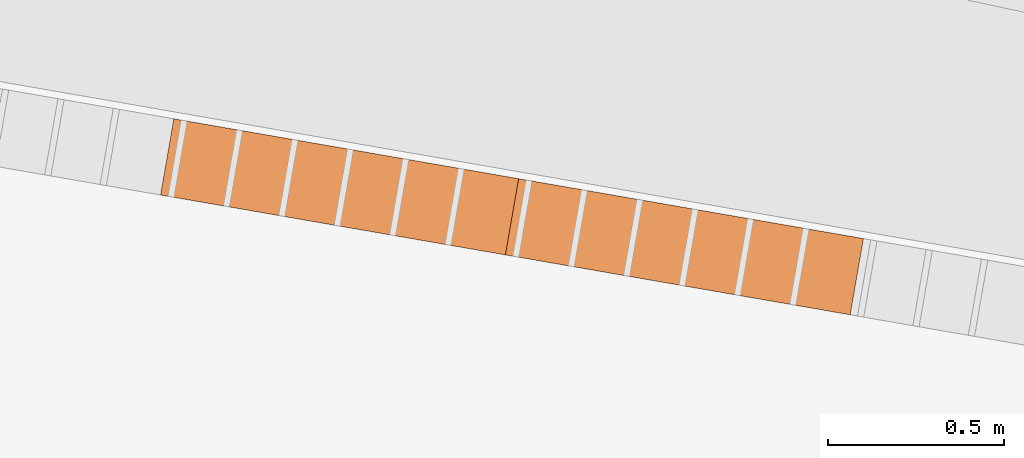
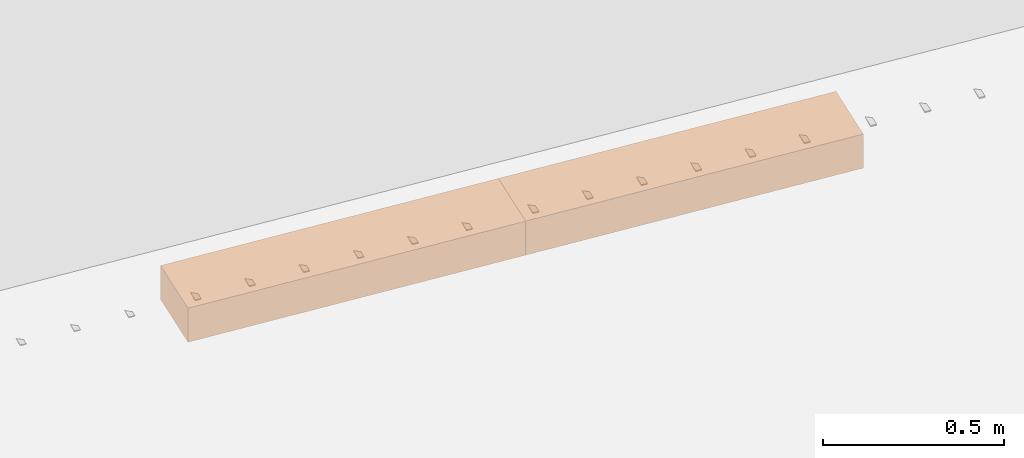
# Not in any storey, part 31 of 33: 2 proxies.
"""IFC4 model written with IfcOpenShell, lengths in metres."""

from ifc_helpers import new_model, si_unit, direction, frame, origin_with_axes, place, context, subcontext, project, spatial, polygons, material, element, save


model = new_model("IFC4")

# Units and contexts
model_context = context("Model", 3, precision=1e-05, world=origin_with_axes(), true_north=direction((0.0, 1.0)))
body_context = subcontext(model_context, "Body", "Model", "MODEL_VIEW")
ifc_project = project(units=[si_unit("LENGTHUNIT", "METRE"), si_unit("AREAUNIT", "SQUARE_METRE"), si_unit("VOLUMEUNIT", "CUBIC_METRE")], contexts=[model_context])

# Site
site_placement = place(None, origin_with_axes())
site = spatial("IfcSite", under=ifc_project, at=site_placement, Name="Lares · Rua das Mercês · artigo 4771")

# Proxies
ifc_material = material(Name="Brita drenante", Category="stone")
proxy_1_placement = place(site_placement, frame((0.0, 0.0, 0.0), z_axis=(0.0, 0.0, 1.0), x_axis=(1.0, -1.03767253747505e-17, 0.0)))
element("IfcBuildingElementProxy", 1, at=proxy_1_placement, inside=site, material=ifc_material, Name="Acesso · dreno lateral raso · leito drenante", ObjectType="Acesso · dreno lateral raso · leito drenante", PredefinedType="USERDEFINED", context=body_context, shape_type="Tessellation", body=[
    polygons([(75.3361707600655, 6.69992759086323, 15.9272099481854), (75.37381996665, 6.91668214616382, 15.9272099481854), (76.3548475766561, 6.74628244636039, 15.981428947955), (76.3171983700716, 6.5295278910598, 15.981428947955), (75.3361707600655, 6.69992759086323, 16.0422099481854), (75.37381996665, 6.91668214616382, 16.0422099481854), (76.3548475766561, 6.74628244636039, 16.096428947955), (76.3171983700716, 6.5295278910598, 16.096428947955)], [[[4, 3, 2, 1]], [[5, 6, 7, 8]], [[1, 2, 6, 5]], [[2, 3, 7, 6]], [[3, 4, 8, 7]], [[4, 1, 5, 8]]]),
])
proxy_2_placement = place(site_placement, frame((0.0, 0.0, 0.0), z_axis=(0.0, 0.0, 1.0), x_axis=(1.0, -1.03767253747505e-17, 0.0)))
element("IfcBuildingElementProxy", 2, at=proxy_2_placement, inside=site, material=ifc_material, Name="Acesso · dreno lateral raso · leito drenante", ObjectType="Acesso · dreno lateral raso · leito drenante", PredefinedType="USERDEFINED", context=body_context, shape_type="Tessellation", body=[
    polygons([(76.3171985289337, 6.52952786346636, 15.981428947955), (76.3548474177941, 6.74628247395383, 15.981428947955), (77.335885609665, 6.57588241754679, 16.0356486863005), (77.2982367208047, 6.35912780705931, 16.0356486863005), (76.3171985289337, 6.52952786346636, 16.096428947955), (76.3548474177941, 6.74628247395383, 16.096428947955), (77.335885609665, 6.57588241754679, 16.1506486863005), (77.2982367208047, 6.35912780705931, 16.1506486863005)], [[[4, 3, 2, 1]], [[5, 6, 7, 8]], [[1, 2, 6, 5]], [[2, 3, 7, 6]], [[3, 4, 8, 7]], [[4, 1, 5, 8]]]),
])

save(model, "model.ifc")
